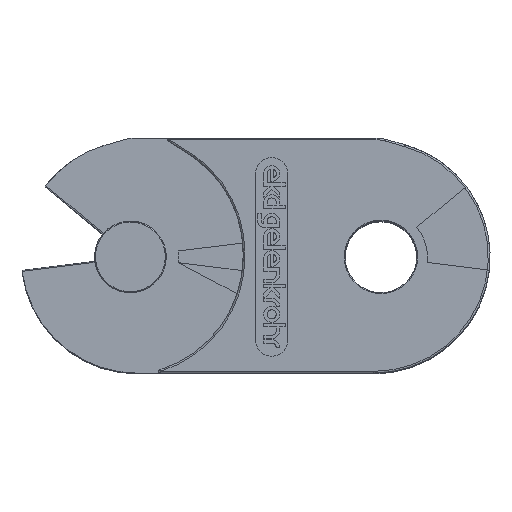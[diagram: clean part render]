
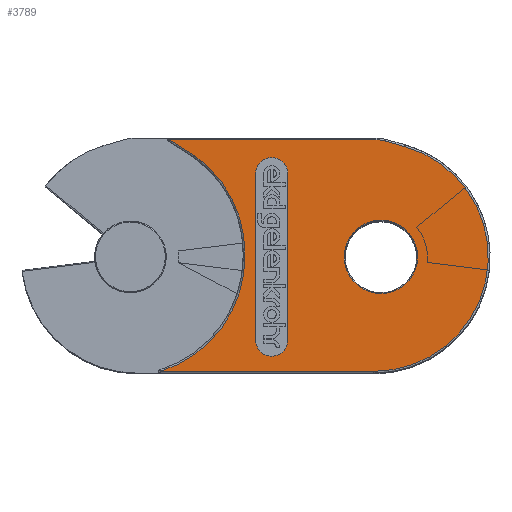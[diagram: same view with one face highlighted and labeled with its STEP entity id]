
A CAD part, top view. The second image highlights one B-rep face of the part: STEP entity #3789.
In plain terms, the highlighted free-form (B-spline) face has degree [1, 1] with [2, 2] control points.
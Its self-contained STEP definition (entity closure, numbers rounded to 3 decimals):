
#3300=CARTESIAN_POINT('',(131.837,195.231,205.528));
#3301=VERTEX_POINT('',#3300);
#3308=CARTESIAN_POINT('',(131.837,148.706,205.528));
#3309=VERTEX_POINT('',#3308);
#3310=CARTESIAN_POINT('',(131.837,148.706,205.528));
#3311=DIRECTION('',(0.0,1.0,0.0));
#3312=VECTOR('',#3311,46.525);
#3313=LINE('',#3310,#3312);
#3314=EDGE_CURVE('',#3309,#3301,#3313,.T.);
#3332=CARTESIAN_POINT('',(140.837,148.706,205.528));
#3333=VERTEX_POINT('',#3332);
#3334=CARTESIAN_POINT('',(136.337,148.706,205.528));
#3335=DIRECTION('',(0.0,0.0,-1.0));
#3336=DIRECTION('',(-1.0,0.0,0.0));
#3337=AXIS2_PLACEMENT_3D('',#3334,#3335,#3336);
#3338=CIRCLE('',#3337,4.5);
#3339=EDGE_CURVE('',#3333,#3309,#3338,.T.);
#3357=CARTESIAN_POINT('',(140.837,195.231,205.528));
#3358=VERTEX_POINT('',#3357);
#3359=CARTESIAN_POINT('',(140.837,195.231,205.528));
#3360=DIRECTION('',(0.0,-1.0,0.0));
#3361=VECTOR('',#3360,46.525);
#3362=LINE('',#3359,#3361);
#3363=EDGE_CURVE('',#3358,#3333,#3362,.T.);
#3381=CARTESIAN_POINT('',(136.337,195.231,205.528));
#3382=DIRECTION('',(0.0,0.0,-1.0));
#3383=DIRECTION('',(1.0,0.0,0.0));
#3384=AXIS2_PLACEMENT_3D('',#3381,#3382,#3383);
#3385=CIRCLE('',#3384,4.5);
#3386=EDGE_CURVE('',#3301,#3358,#3385,.T.);
#3697=CARTESIAN_POINT('',(105.249,204.668,205.528));
#3698=CARTESIAN_POINT('',(196.837,204.668,205.528));
#3699=CARTESIAN_POINT('',(105.249,139.968,205.528));
#3700=CARTESIAN_POINT('',(196.837,139.968,205.528));
#3701=B_SPLINE_SURFACE_WITH_KNOTS('',1,1,((#3697,#3699),(#3698,#3700)),.UNSPECIFIED.,.F.,.F.,.U.,(2,2),(2,2),(0.0,91.588),(0.0,64.7),.UNSPECIFIED.);
#3702=CARTESIAN_POINT('',(164.837,139.968,205.528));
#3703=VERTEX_POINT('',#3702);
#3704=CARTESIAN_POINT('',(173.507,202.771,205.528));
#3705=VERTEX_POINT('',#3704);
#3706=CARTESIAN_POINT('',(164.837,171.968,205.528));
#3707=DIRECTION('',(0.,0.,1.0));
#3708=DIRECTION('',(0.991,-0.137,0.));
#3709=AXIS2_PLACEMENT_3D('',#3706,#3707,#3708);
#3710=CIRCLE('',#3709,32.);
#3711=EDGE_CURVE('',#3703,#3705,#3710,.T.);
#3712=ORIENTED_EDGE('',*,*,#3711,.T.);
#3713=CARTESIAN_POINT('',(168.03,204.313,205.528));
#3714=VERTEX_POINT('',#3713);
#3715=CARTESIAN_POINT('',(173.507,202.771,205.528));
#3716=DIRECTION('',(-0.963,0.271,0.0));
#3717=VECTOR('',#3716,5.69);
#3718=LINE('',#3715,#3717);
#3719=EDGE_CURVE('',#3705,#3714,#3718,.T.);
#3720=ORIENTED_EDGE('',*,*,#3719,.T.);
#3721=CARTESIAN_POINT('',(165.456,204.668,205.528));
#3722=VERTEX_POINT('',#3721);
#3723=CARTESIAN_POINT('',(165.456,195.168,205.528));
#3724=DIRECTION('',(0.,0.,1.));
#3725=DIRECTION('',(0.137,0.991,0.));
#3726=AXIS2_PLACEMENT_3D('',#3723,#3724,#3725);
#3727=CIRCLE('',#3726,9.5);
#3728=EDGE_CURVE('',#3714,#3722,#3727,.T.);
#3729=ORIENTED_EDGE('',*,*,#3728,.T.);
#3730=CARTESIAN_POINT('',(107.835,204.668,205.528));
#3731=VERTEX_POINT('',#3730);
#3732=CARTESIAN_POINT('',(165.456,204.668,205.528));
#3733=DIRECTION('',(-1.0,0.0,0.0));
#3734=VECTOR('',#3733,57.621);
#3735=LINE('',#3732,#3734);
#3736=EDGE_CURVE('',#3722,#3731,#3735,.T.);
#3737=ORIENTED_EDGE('',*,*,#3736,.T.);
#3738=CARTESIAN_POINT('',(114.841,200.205,205.528));
#3739=VERTEX_POINT('',#3738);
#3740=CARTESIAN_POINT('',(107.835,204.668,205.528));
#3741=DIRECTION('',(0.843,-0.537,0.));
#3742=VECTOR('',#3741,8.308);
#3743=LINE('',#3740,#3742);
#3744=EDGE_CURVE('',#3731,#3739,#3743,.T.);
#3745=ORIENTED_EDGE('',*,*,#3744,.T.);
#3746=CARTESIAN_POINT('',(128.833,172.468,205.528));
#3747=VERTEX_POINT('',#3746);
#3748=CARTESIAN_POINT('',(95.337,172.968,205.528));
#3749=DIRECTION('',(0.,0.,-1.0));
#3750=DIRECTION('',(0.893,0.45,0.));
#3751=AXIS2_PLACEMENT_3D('',#3748,#3749,#3750);
#3752=CIRCLE('',#3751,33.5);
#3753=EDGE_CURVE('',#3739,#3747,#3752,.T.);
#3754=ORIENTED_EDGE('',*,*,#3753,.T.);
#3755=CARTESIAN_POINT('',(105.249,139.968,205.528));
#3756=VERTEX_POINT('',#3755);
#3757=CARTESIAN_POINT('',(95.337,171.968,205.528));
#3758=DIRECTION('',(0.,0.,-1.));
#3759=DIRECTION('',(0.809,-0.587,0.));
#3760=AXIS2_PLACEMENT_3D('',#3757,#3758,#3759);
#3761=CIRCLE('',#3760,33.5);
#3762=EDGE_CURVE('',#3747,#3756,#3761,.T.);
#3763=ORIENTED_EDGE('',*,*,#3762,.T.);
#3764=CARTESIAN_POINT('',(105.249,139.968,205.528));
#3765=DIRECTION('',(1.0,0.0,0.0));
#3766=VECTOR('',#3765,59.588);
#3767=LINE('',#3764,#3766);
#3768=EDGE_CURVE('',#3756,#3703,#3767,.T.);
#3769=ORIENTED_EDGE('',*,*,#3768,.T.);
#3770=EDGE_LOOP('',(#3712,#3720,#3729,#3737,#3745,#3754,#3763,#3769));
#3771=FACE_OUTER_BOUND('',#3770,.T.);
#3772=CARTESIAN_POINT('',(177.087,171.968,205.528));
#3773=VERTEX_POINT('',#3772);
#3774=CARTESIAN_POINT('',(166.837,171.968,205.528));
#3775=DIRECTION('',(0.0,0.0,-1.0));
#3776=DIRECTION('',(-1.0,0.0,0.0));
#3777=AXIS2_PLACEMENT_3D('',#3774,#3775,#3776);
#3778=CIRCLE('',#3777,10.25);
#3779=EDGE_CURVE('',#3773,#3773,#3778,.T.);
#3780=ORIENTED_EDGE('',*,*,#3779,.T.);
#3781=EDGE_LOOP('',(#3780));
#3782=FACE_BOUND('',#3781,.T.);
#3783=ORIENTED_EDGE('',*,*,#3314,.T.);
#3784=ORIENTED_EDGE('',*,*,#3386,.T.);
#3785=ORIENTED_EDGE('',*,*,#3363,.T.);
#3786=ORIENTED_EDGE('',*,*,#3339,.T.);
#3787=EDGE_LOOP('',(#3783,#3784,#3785,#3786));
#3788=FACE_BOUND('',#3787,.T.);
#3789=ADVANCED_FACE('',(#3771,#3782,#3788),#3701,.F.);
